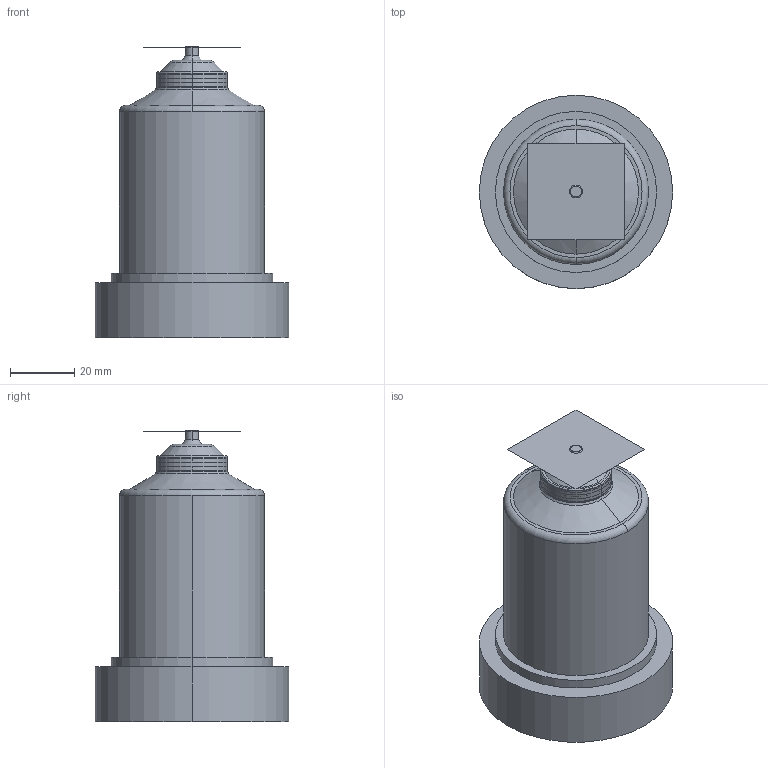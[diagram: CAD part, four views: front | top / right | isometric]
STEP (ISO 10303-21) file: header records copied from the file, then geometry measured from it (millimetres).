
FILE_DESCRIPTION (( 'STEP AP214' ), '1' );
FILE_NAME ('16E-06-090-VSW.STEP', '2021-07-14T13:41:34', ( '' ), ( '' ), 'SwSTEP 2.0', 'SolidWorks 2018', '' );
FILE_SCHEMA (( 'AUTOMOTIVE_DESIGN' ));
Length unit declared in the file: millimetre
Products named in the file (3): cutout_16E-06-090-VSW; nozzle_16E-06-090-VSW; 16E-06-090-VSW
Assembly tree (2 placements, depth 2):
  16E-06-090-VSW
    nozzle_16E-06-090-VSW
    cutout_16E-06-090-VSW
Bounding box: 60 x 60 x 90.3 mm (x, y, z)
Volume: 143156.2 mm3; surface area: 43552.2 mm2
Topology: 1 solids, 4 shells, 310 faces, 870 edges, 533 vertices
Faces by surface type: cylinder 120, plane 118, torus 43, cone 29
Entity records: 10922 total; most frequent: CARTESIAN_POINT 2533, DIRECTION 1875, ORIENTED_EDGE 1736, EDGE_CURVE 870, AXIS2_PLACEMENT_3D 747, VERTEX_POINT 533, CIRCLE 431, LINE 381
